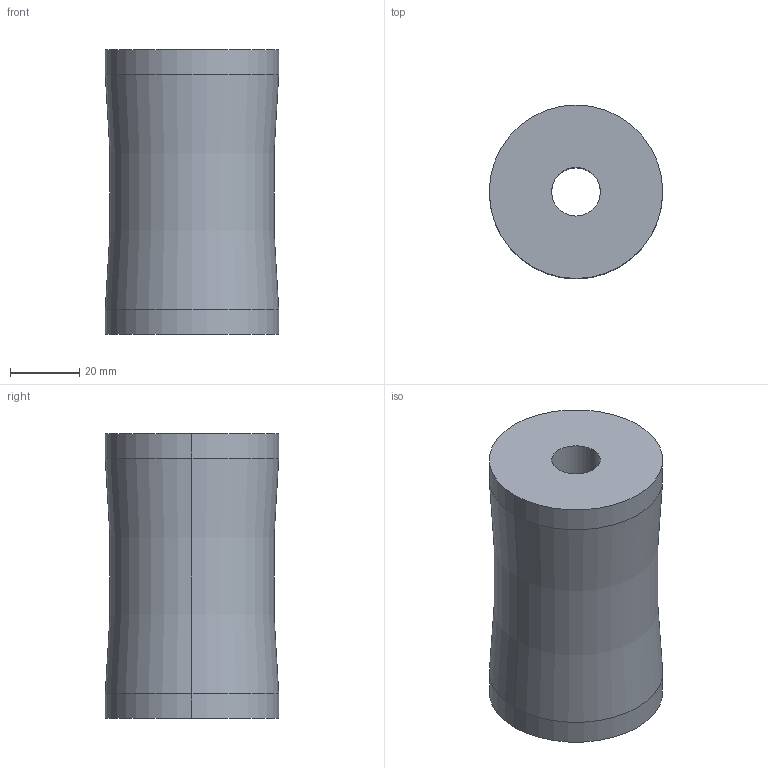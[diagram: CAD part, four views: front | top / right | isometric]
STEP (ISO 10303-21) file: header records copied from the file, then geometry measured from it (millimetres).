
FILE_DESCRIPTION(/* description */ (''),/* implementation_level */ '2;1');
FILE_NAME(/* name */ '3d_ex5148_06500_r00.stp',/* time_stamp */ '2011-01-10T14:15:38+09:00',/* author */ ('MISUMI'),/* organization */ (''),/* preprocessor_version */ 'ST-DEVELOPER v11',/* originating_system */ 'UGS - NX 5.0',/* authorisation */ '');
FILE_SCHEMA (('CONFIG_CONTROL_DESIGN'));
Length unit declared in the file: millimetre
Products named in the file (1): 3d_ex5148_06500_r00
Bounding box: 50 x 50 x 82 mm (x, y, z)
Volume: 137952.4 mm3; surface area: 19692.2 mm2
Topology: 1 solids, 1 shells, 10 faces, 20 edges, 12 vertices
Faces by surface type: cylinder 6, plane 2, torus 2
Entity records: 356 total; most frequent: DIRECTION 56, CARTESIAN_POINT 43, ORIENTED_EDGE 40, AXIS2_PLACEMENT_3D 25, EDGE_CURVE 20, CIRCLE 14, EDGE_LOOP 12, VERTEX_POINT 12
